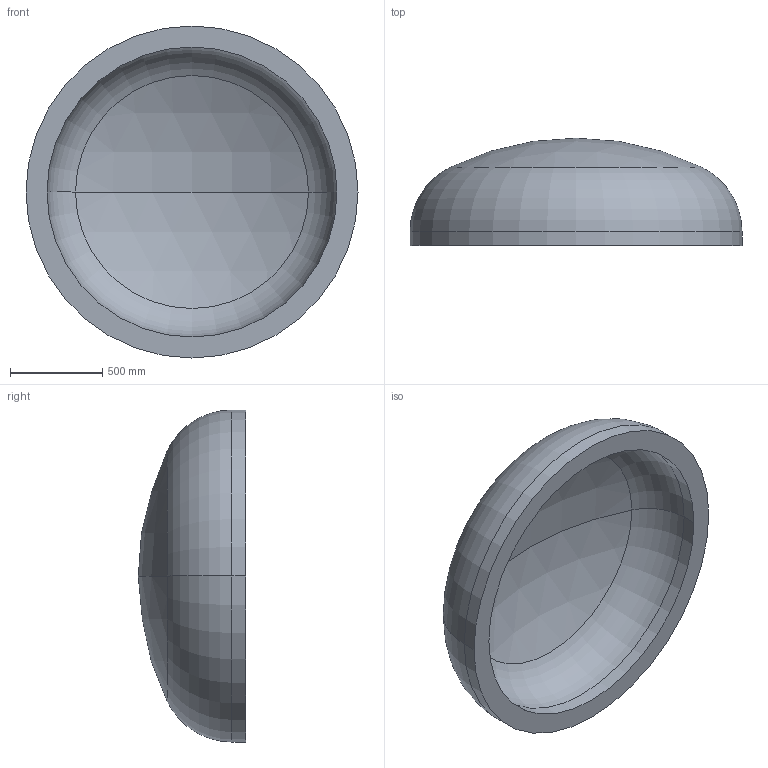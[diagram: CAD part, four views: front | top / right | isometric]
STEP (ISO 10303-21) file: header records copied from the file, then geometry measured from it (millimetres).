
FILE_DESCRIPTION (( 'STEP AP203' ), '1' );
FILE_NAME ('DIN 28013 Korbbogenform_-_Boden DIN 28013 - 1800 x 75 - I - s=114.step', '2016-07-01T12:48:24', ( '' ), ( '' ), 'SwSTEP 2.0', 'SolidWorks 2013', '' );
FILE_SCHEMA (( 'CONFIG_CONTROL_DESIGN' ));
Length unit declared in the file: millimetre
Products named in the file (1): DIN 28013 Korbbogenform_-_Boden DIN 28013 - 1800 x 75 - I - s=114
Bounding box: 1800 x 582.05 x 1800 mm (x, y, z)
Volume: 415372891.6 mm3; surface area: 7918287.3 mm2
Topology: 1 solids, 1 shells, 13 faces, 24 edges, 14 vertices
Faces by surface type: torus 4, cylinder 4, sphere 4, plane 1
Entity records: 407 total; most frequent: DIRECTION 72, CARTESIAN_POINT 52, ORIENTED_EDGE 48, AXIS2_PLACEMENT_3D 34, EDGE_CURVE 24, CIRCLE 20, EDGE_LOOP 14, VERTEX_POINT 14
